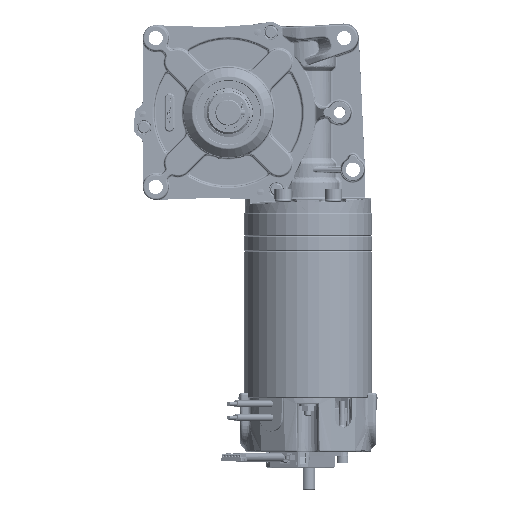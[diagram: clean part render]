
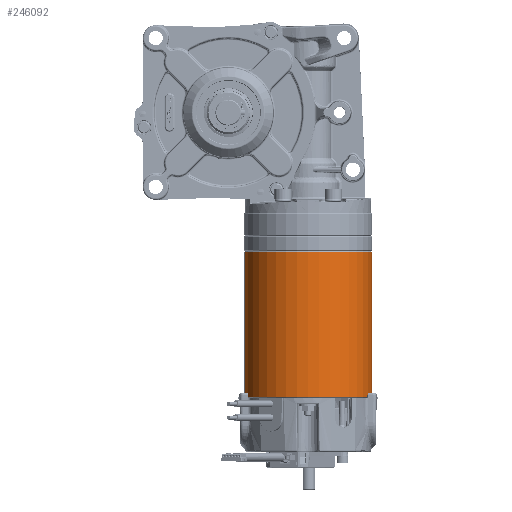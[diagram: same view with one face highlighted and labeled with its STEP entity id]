
A CAD part, left-side view. The second image highlights one B-rep face of the part: STEP entity #246092.
In plain terms, the highlighted cylindrical face has radius 37 mm (diameter 74 mm), a partial arc.
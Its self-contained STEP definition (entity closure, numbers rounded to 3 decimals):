
#15206 = DIRECTION ( 'NONE',  ( 0.169, -0.986, 0. ) ) ;
#26649 = LINE ( 'NONE', #335831, #135594 ) ;
#41538 = VERTEX_POINT ( 'NONE', #194562 ) ;
#57637 = CARTESIAN_POINT ( 'NONE',  ( -133.058, -23.817, 19.684 ) ) ;
#61367 = EDGE_CURVE ( 'NONE', #288317, #359820, #369398, .T. ) ;
#61545 = CIRCLE ( 'NONE', #272177, 37. ) ;
#67516 = DIRECTION ( 'NONE',  ( 0., 0., -1. ) ) ;
#72813 = ORIENTED_EDGE ( 'NONE', *, *, #225343, .T. ) ;
#75784 = DIRECTION ( 'NONE',  ( 0., 0., -1. ) ) ;
#96446 = DIRECTION ( 'NONE',  ( 0., 0., 1. ) ) ;
#107246 = EDGE_CURVE ( 'NONE', #288317, #41538, #26649, .T. ) ;
#116577 = DIRECTION ( 'NONE',  ( 0., 0., -1. ) ) ;
#121198 = CARTESIAN_POINT ( 'NONE',  ( -133.058, -23.817, -64.816 ) ) ;
#135594 = VECTOR ( 'NONE', #75784, 1000. ) ;
#138704 = CARTESIAN_POINT ( 'NONE',  ( -120.552, -96.752, 19.184 ) ) ;
#152337 = CARTESIAN_POINT ( 'NONE',  ( -126.805, -60.285, 19.684 ) ) ;
#154156 = DIRECTION ( 'NONE',  ( 0.169, -0.986, 0. ) ) ;
#174452 = DIRECTION ( 'NONE',  ( 0., 0., -1. ) ) ;
#192646 = AXIS2_PLACEMENT_3D ( 'NONE', #152337, #67516, #154156 ) ;
#194562 = CARTESIAN_POINT ( 'NONE',  ( -120.552, -96.752, -64.816 ) ) ;
#201358 = DIRECTION ( 'NONE',  ( 0.169, -0.986, 0. ) ) ;
#205593 = EDGE_CURVE ( 'NONE', #269373, #41538, #61545, .T. ) ;
#225343 = EDGE_CURVE ( 'NONE', #359820, #269373, #314013, .T. ) ;
#235684 = EDGE_LOOP ( 'NONE', ( #362382, #72813, #320382, #307644 ) ) ;
#238985 = FACE_OUTER_BOUND ( 'NONE', #235684, .T. ) ;
#246092 = ADVANCED_FACE ( 'NONE', ( #238985 ), #355831, .T. ) ;
#254971 = AXIS2_PLACEMENT_3D ( 'NONE', #318291, #116577, #201358 ) ;
#269373 = VERTEX_POINT ( 'NONE', #121198 ) ;
#272177 = AXIS2_PLACEMENT_3D ( 'NONE', #331928, #96446, #15206 ) ;
#288317 = VERTEX_POINT ( 'NONE', #138704 ) ;
#291313 = CARTESIAN_POINT ( 'NONE',  ( -133.058, -23.817, 19.184 ) ) ;
#307644 = ORIENTED_EDGE ( 'NONE', *, *, #107246, .F. ) ;
#314013 = LINE ( 'NONE', #57637, #363857 ) ;
#318291 = CARTESIAN_POINT ( 'NONE',  ( -126.805, -60.285, 19.184 ) ) ;
#320382 = ORIENTED_EDGE ( 'NONE', *, *, #205593, .T. ) ;
#331928 = CARTESIAN_POINT ( 'NONE',  ( -126.805, -60.285, -64.816 ) ) ;
#335831 = CARTESIAN_POINT ( 'NONE',  ( -120.552, -96.752, 19.684 ) ) ;
#355831 = CYLINDRICAL_SURFACE ( 'NONE', #192646, 37. ) ;
#359820 = VERTEX_POINT ( 'NONE', #291313 ) ;
#362382 = ORIENTED_EDGE ( 'NONE', *, *, #61367, .T. ) ;
#363857 = VECTOR ( 'NONE', #174452, 1000. ) ;
#369398 = CIRCLE ( 'NONE', #254971, 37. ) ;
